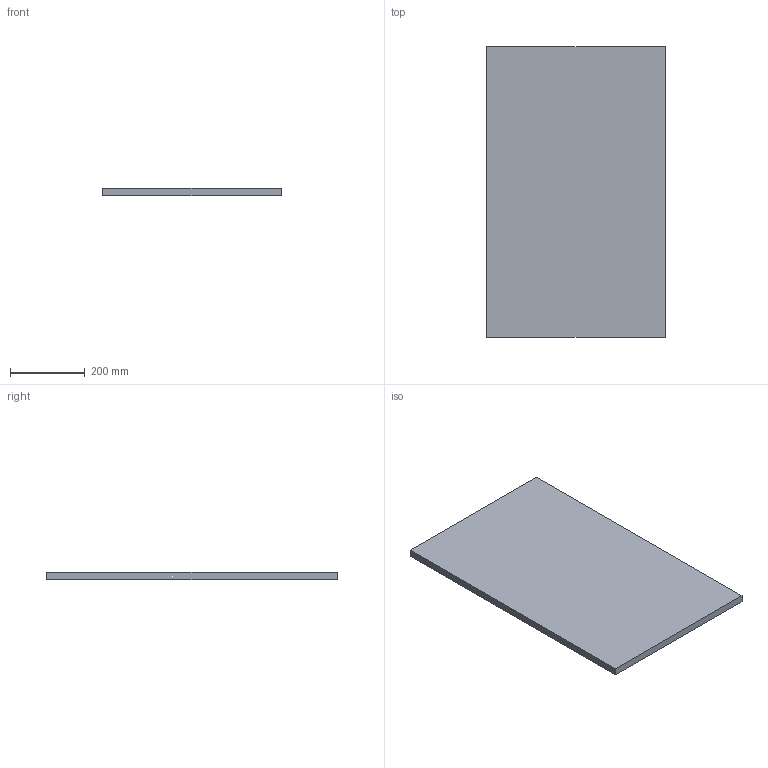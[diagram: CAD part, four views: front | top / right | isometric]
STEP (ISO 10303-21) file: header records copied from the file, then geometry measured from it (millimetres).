
FILE_DESCRIPTION(('Open CASCADE Model'),'2;1');
FILE_NAME('Open CASCADE Shape Model','2026-09-19T12:55:25',('Author'),( 'Open CASCADE'),'Open CASCADE STEP processor 7.9','Open CASCADE 7.9' ,'Unknown');
FILE_SCHEMA(('AUTOMOTIVE_DESIGN { 1 0 10303 214 1 1 1 1 }'));
Length unit declared in the file: millimetre
Products named in the file (1): Open CASCADE STEP translator 7.9 484
Bounding box: 480 x 780 x 20 mm (x, y, z)
Volume: 7488000 mm3; surface area: 799200 mm2
Topology: 1 solids, 1 shells, 6 faces, 12 edges, 8 vertices
Faces by surface type: plane 6
Entity records: 322 total; most frequent: CARTESIAN_POINT 51, DIRECTION 50, LINE 36, VECTOR 36, ORIENTED_EDGE 24, PCURVE 24, DEFINITIONAL_REPRESENTATION 24, EDGE_CURVE 12
